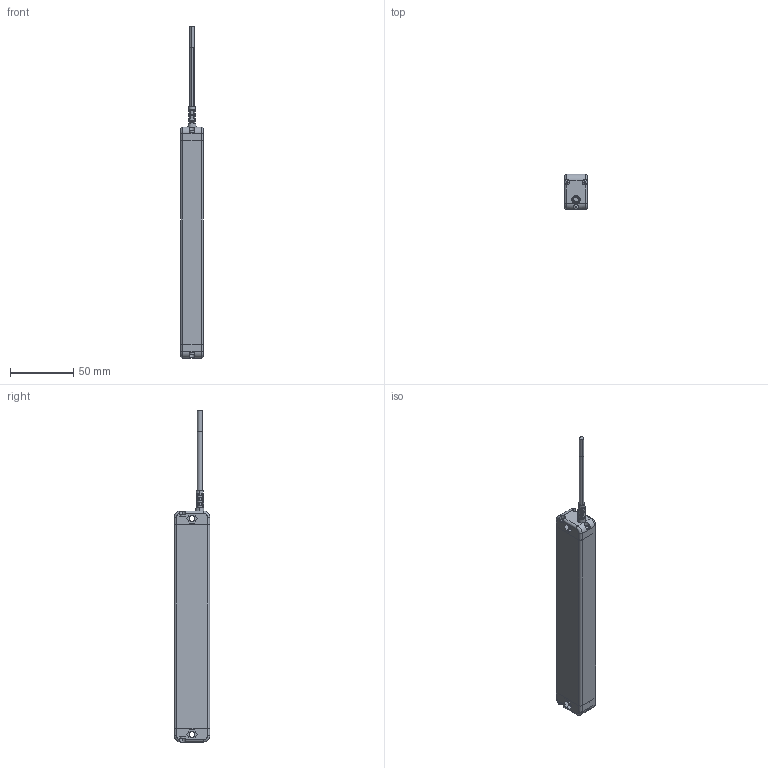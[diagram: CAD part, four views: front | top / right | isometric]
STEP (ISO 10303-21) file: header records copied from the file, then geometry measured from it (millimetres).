
FILE_DESCRIPTION (( 'STEP AP214' ), '1' );
FILE_NAME ('PG7-30RT-08BTC-5.STEP', '2025-09-22T08:28:08', ( 'Windows User' ), ( 'P R C' ), 'SwSTEP 2.0', 'SolidWorks 2023', '' );
FILE_SCHEMA (( 'AUTOMOTIVE_DESIGN' ));
Length unit declared in the file: millimetre
Products named in the file (9): PG7壳体; 3.8导线; PG7出线端盖; PG7端盖密封垫; PG7后端盖; 导线护套; cross recessed pan head screws gb_GB_CROSS_SCREWS_TYPE1 M2X12-12  H type-N; PG7-30RT-08BTC-5; 滤光片
Assembly tree (14 placements, depth 2):
  PG7-30RT-08BTC-5
    PG7壳体
    PG7端盖密封垫
    滤光片
    PG7后端盖
    导线护套
    3.8导线  x2
    cross recessed pan head screws gb_GB_CROSS_SCREWS_TYPE1 M2X12-12  H type-N  x6
    PG7出线端盖
Bounding box: 18 x 28 x 261.59 mm (x, y, z)
Volume: 34073.7 mm3; surface area: 46627.4 mm2
Topology: 14 solids, 14 shells, 899 faces, 2497 edges, 1648 vertices
Faces by surface type: plane 453, cylinder 386, torus 24, cone 24, bspline 12
Entity records: 26147 total; most frequent: CARTESIAN_POINT 5639, ORIENTED_EDGE 4322, DIRECTION 4259, EDGE_CURVE 2161, AXIS2_PLACEMENT_3D 1488, VERTEX_POINT 1424, LINE 1283, VECTOR 1283
